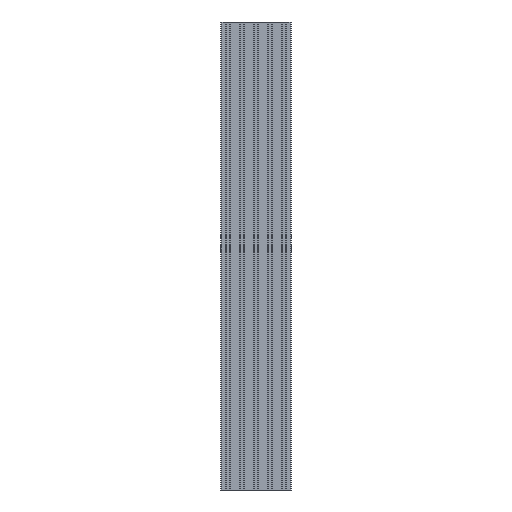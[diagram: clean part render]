
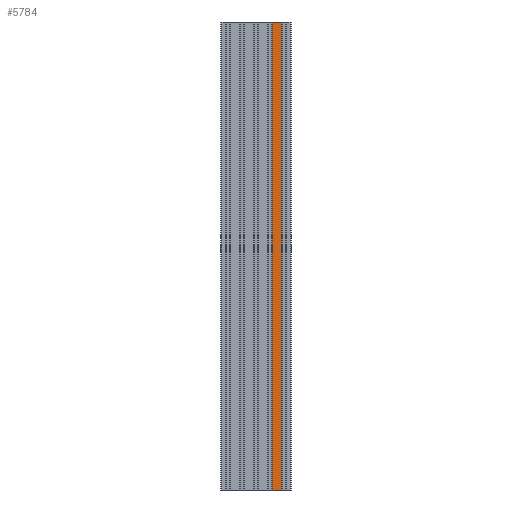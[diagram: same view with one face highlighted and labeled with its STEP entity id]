
A CAD part, front view. The second image highlights one B-rep face of the part: STEP entity #5784.
In plain terms, the highlighted planar face has unit normal (0, -1, 0).
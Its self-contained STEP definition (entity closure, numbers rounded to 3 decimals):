
#123 = DIRECTION ( 'NONE',  ( 0., 0., 1. ) ) ;
#920 = VERTEX_POINT ( 'NONE', #5245 ) ;
#1014 = DIRECTION ( 'NONE',  ( 0., 0., 1. ) ) ;
#1566 = CARTESIAN_POINT ( 'NONE',  ( 55., -15., 500. ) ) ;
#1637 = LINE ( 'NONE', #8155, #2766 ) ;
#1906 = ORIENTED_EDGE ( 'NONE', *, *, #6857, .F. ) ;
#2311 = EDGE_CURVE ( 'NONE', #4192, #7570, #3280, .T. ) ;
#2415 = VECTOR ( 'NONE', #4384, 1000. ) ;
#2480 = AXIS2_PLACEMENT_3D ( 'NONE', #9044, #5819, #1014 ) ;
#2766 = VECTOR ( 'NONE', #4129, 1000. ) ;
#3280 = LINE ( 'NONE', #3570, #2415 ) ;
#3333 = EDGE_CURVE ( 'NONE', #7570, #920, #1637, .T. ) ;
#3485 = CARTESIAN_POINT ( 'NONE',  ( -75., -15., 500. ) ) ;
#3495 = FACE_OUTER_BOUND ( 'NONE', #5315, .T. ) ;
#3570 = CARTESIAN_POINT ( 'NONE',  ( 35., -15., 500. ) ) ;
#4129 = DIRECTION ( 'NONE',  ( 1., 0., 0. ) ) ;
#4192 = VERTEX_POINT ( 'NONE', #9613 ) ;
#4384 = DIRECTION ( 'NONE',  ( 0., 0., -1. ) ) ;
#5245 = CARTESIAN_POINT ( 'NONE',  ( 55., -15., -500. ) ) ;
#5315 = EDGE_LOOP ( 'NONE', ( #8909, #10422, #1906, #5951 ) ) ;
#5488 = VECTOR ( 'NONE', #9163, 1000. ) ;
#5784 = ADVANCED_FACE ( 'NONE', ( #3495 ), #8233, .F. ) ;
#5819 = DIRECTION ( 'NONE',  ( 0., 1., 0. ) ) ;
#5951 = ORIENTED_EDGE ( 'NONE', *, *, #2311, .T. ) ;
#6435 = LINE ( 'NONE', #9749, #6693 ) ;
#6693 = VECTOR ( 'NONE', #123, 1000. ) ;
#6857 = EDGE_CURVE ( 'NONE', #4192, #7872, #10292, .T. ) ;
#7255 = EDGE_CURVE ( 'NONE', #920, #7872, #6435, .T. ) ;
#7570 = VERTEX_POINT ( 'NONE', #9364 ) ;
#7872 = VERTEX_POINT ( 'NONE', #1566 ) ;
#8155 = CARTESIAN_POINT ( 'NONE',  ( -75., -15., -500. ) ) ;
#8233 = PLANE ( 'NONE',  #2480 ) ;
#8909 = ORIENTED_EDGE ( 'NONE', *, *, #3333, .T. ) ;
#9044 = CARTESIAN_POINT ( 'NONE',  ( -75., -15., 500. ) ) ;
#9163 = DIRECTION ( 'NONE',  ( 1., 0., 0. ) ) ;
#9364 = CARTESIAN_POINT ( 'NONE',  ( 35., -15., -500. ) ) ;
#9613 = CARTESIAN_POINT ( 'NONE',  ( 35., -15., 500. ) ) ;
#9749 = CARTESIAN_POINT ( 'NONE',  ( 55., -15., 500. ) ) ;
#10292 = LINE ( 'NONE', #3485, #5488 ) ;
#10422 = ORIENTED_EDGE ( 'NONE', *, *, #7255, .T. ) ;
